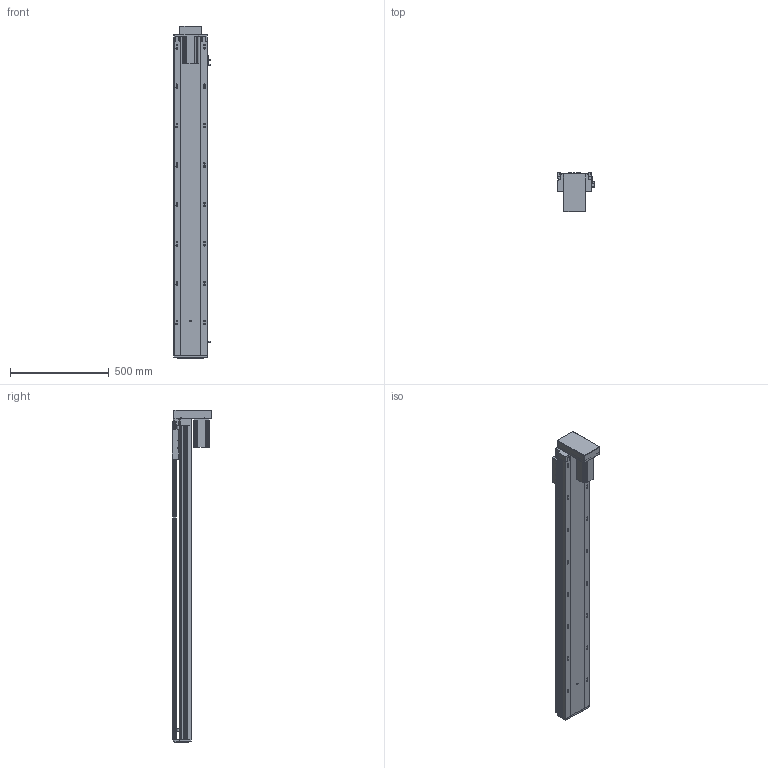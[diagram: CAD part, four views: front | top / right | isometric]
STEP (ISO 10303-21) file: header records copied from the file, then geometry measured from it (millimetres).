
FILE_DESCRIPTION (( 'STEP AP203' ), '1' );
FILE_NAME ('RY170-L2510-1400-BK.SLDASM_1350.step', '2021-03-12T09:25:44', ( '盈信电脑' ), ( '东莞市道滘镇水果街19号' ), 'SwSTEP 2.0', 'SolidWorks 2012', '' );
FILE_SCHEMA (( 'CONFIG_CONTROL_DESIGN' ));
Length unit declared in the file: millimetre
Products named in the file (14): RY170外置感应片(200共用）; RY170转折电机端支撑座(7004); 滅袉蝶18-20; 改造-RY170铝滑块25丝杆螺母; RY170綴裔啣; RY170-1400倰第裔啣-BK_1350; 覜茼ん672; RY170-1400倰第菁釱-BK_1350; 怢湛750W萇儂ㄗ80遺ㄘ; 滅袉蝶18-15; RY170-狟殏750W萇儂傷; RY170狟殏萇儂欶; RY170-狟殏萇儂假蚾啣; RY170-L2510-1400-BK.SLDASM_1350
Assembly tree (15 placements, depth 3):
  RY170-L2510-1400-BK.SLDASM_1350
    RY170-1400倰第菁釱-BK_1350
    改造-RY170铝滑块25丝杆螺母
    RY170-1400倰第裔啣-BK_1350
    RY170綴裔啣
    覜茼ん672  x3
    RY170外置感应片(200共用）
    滅袉蝶18-20
    RY170转折电机端支撑座(7004)
    RY170-狟殏750W萇儂傷
      RY170-狟殏萇儂假蚾啣
      RY170狟殏萇儂欶
      怢湛750W萇儂ㄗ80遺ㄘ
    滅袉蝶18-15
Bounding box: 183.7 x 200.8 x 1684.5 mm (x, y, z)
Volume: 8785218.6 mm3; surface area: 2796453.1 mm2
Topology: 14 solids, 14 shells, 2242 faces, 6429 edges, 4106 vertices
Faces by surface type: plane 1084, cylinder 929, cone 210, bspline 19
Entity records: 72490 total; most frequent: CARTESIAN_POINT 17470, ORIENTED_EDGE 11530, DIRECTION 10691, EDGE_CURVE 5765, VERTEX_POINT 3786, AXIS2_PLACEMENT_3D 3577, VECTOR 3537, LINE 3537
